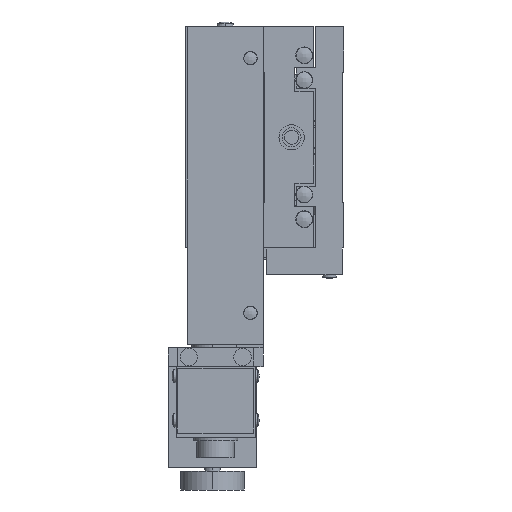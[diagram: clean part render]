
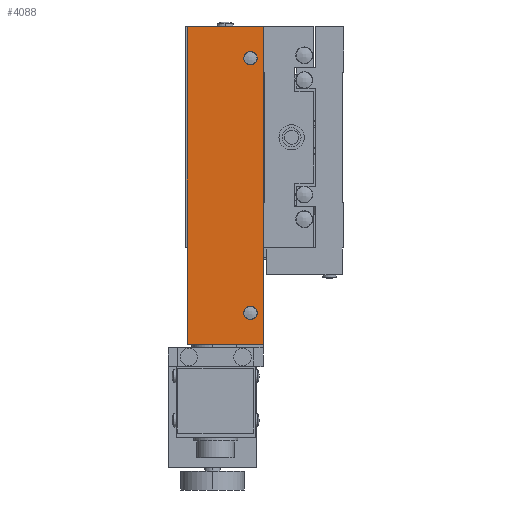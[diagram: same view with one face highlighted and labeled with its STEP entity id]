
A CAD part, left-side view. The second image highlights one B-rep face of the part: STEP entity #4088.
In plain terms, the highlighted planar face has unit normal (-1, 0, 0).
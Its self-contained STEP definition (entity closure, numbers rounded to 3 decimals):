
#2295 = VERTEX_POINT ( 'NONE', #11821 ) ;
#2348 = VERTEX_POINT ( 'NONE', #11966 ) ;
#2351 = EDGE_CURVE ( 'NONE', #2377, #2348, #11969, .T. ) ;
#2362 = VERTEX_POINT ( 'NONE', #11949 ) ;
#2364 = EDGE_CURVE ( 'NONE', #2295, #2362, #12009, .T. ) ;
#2377 = VERTEX_POINT ( 'NONE', #12025 ) ;
#3295 = VERTEX_POINT ( 'NONE', #14153 ) ;
#3296 = VERTEX_POINT ( 'NONE', #14151 ) ;
#3363 = EDGE_CURVE ( 'NONE', #3295, #3296, #14295, .T. ) ;
#3913 = VERTEX_POINT ( 'NONE', #15309 ) ;
#3962 = EDGE_CURVE ( 'NONE', #3295, #3913, #15412, .T. ) ;
#4013 = EDGE_LOOP ( 'NONE', ( #4090, #4074 ) ) ;
#4015 = VERTEX_POINT ( 'NONE', #15472 ) ;
#4071 = ORIENTED_EDGE ( 'NONE', *, *, #3363, .T. ) ;
#4073 = EDGE_CURVE ( 'NONE', #2362, #2295, #15600, .T. ) ;
#4074 = ORIENTED_EDGE ( 'NONE', *, *, #2364, .F. ) ;
#4080 = EDGE_CURVE ( 'NONE', #3296, #4015, #15599, .T. ) ;
#4082 = ORIENTED_EDGE ( 'NONE', *, *, #2351, .F. ) ;
#4083 = EDGE_LOOP ( 'NONE', ( #4089, #4082 ) ) ;
#4084 = EDGE_LOOP ( 'NONE', ( #4094, #4087, #4071, #4091 ) ) ;
#4086 = EDGE_CURVE ( 'NONE', #2348, #2377, #15659, .T. ) ;
#4087 = ORIENTED_EDGE ( 'NONE', *, *, #3962, .F. ) ;
#4088 = ADVANCED_FACE ( 'NONE', ( #15601, #15648, #15655 ), #15650, .T. ) ;
#4089 = ORIENTED_EDGE ( 'NONE', *, *, #4086, .F. ) ;
#4090 = ORIENTED_EDGE ( 'NONE', *, *, #4073, .F. ) ;
#4091 = ORIENTED_EDGE ( 'NONE', *, *, #4080, .T. ) ;
#4092 = EDGE_CURVE ( 'NONE', #3913, #4015, #15639, .T. ) ;
#4094 = ORIENTED_EDGE ( 'NONE', *, *, #4092, .F. ) ;
#11821 = CARTESIAN_POINT ( 'NONE',  ( -43.5, 31.65, -10. ) ) ;
#11949 = CARTESIAN_POINT ( 'NONE',  ( -43.5, 27.35, -10. ) ) ;
#11958 = DIRECTION ( 'NONE',  ( 0., -1., 0. ) ) ;
#11959 = DIRECTION ( 'NONE',  ( -1., 0., 0. ) ) ;
#11960 = CARTESIAN_POINT ( 'NONE',  ( -43.5, 29.5, -90.5 ) ) ;
#11961 = AXIS2_PLACEMENT_3D ( 'NONE', #11960, #11959, #11958 ) ;
#11966 = CARTESIAN_POINT ( 'NONE',  ( -43.5, 27.35, -90.5 ) ) ;
#11969 = CIRCLE ( 'NONE', #11961, 2.15 ) ;
#11995 = DIRECTION ( 'NONE',  ( 0., -1., 0. ) ) ;
#11996 = DIRECTION ( 'NONE',  ( -1., 0., 0. ) ) ;
#12001 = AXIS2_PLACEMENT_3D ( 'NONE', #12011, #11996, #11995 ) ;
#12009 = CIRCLE ( 'NONE', #12001, 2.15 ) ;
#12011 = CARTESIAN_POINT ( 'NONE',  ( -43.5, 29.5, -10. ) ) ;
#12025 = CARTESIAN_POINT ( 'NONE',  ( -43.5, 31.65, -90.5 ) ) ;
#14151 = CARTESIAN_POINT ( 'NONE',  ( -43.5, 49.5, 0. ) ) ;
#14153 = CARTESIAN_POINT ( 'NONE',  ( -43.5, 25.5, 0. ) ) ;
#14291 = DIRECTION ( 'NONE',  ( 0., 1., 0. ) ) ;
#14292 = VECTOR ( 'NONE', #14291, 1000. ) ;
#14294 = CARTESIAN_POINT ( 'NONE',  ( -43.5, 26., 0. ) ) ;
#14295 = LINE ( 'NONE', #14294, #14292 ) ;
#15309 = CARTESIAN_POINT ( 'NONE',  ( -43.5, 25.5, -100.5 ) ) ;
#15400 = DIRECTION ( 'NONE',  ( 0., 0., -1. ) ) ;
#15401 = VECTOR ( 'NONE', #15400, 1000. ) ;
#15411 = CARTESIAN_POINT ( 'NONE',  ( -43.5, 25.5, 0. ) ) ;
#15412 = LINE ( 'NONE', #15411, #15401 ) ;
#15472 = CARTESIAN_POINT ( 'NONE',  ( -43.5, 49.5, -100.5 ) ) ;
#15580 = DIRECTION ( 'NONE',  ( -1., 0., 0. ) ) ;
#15593 = AXIS2_PLACEMENT_3D ( 'NONE', #15607, #15606, #15611 ) ;
#15598 = CARTESIAN_POINT ( 'NONE',  ( -43.5, 29.5, -90.5 ) ) ;
#15599 = LINE ( 'NONE', #15654, #15653 ) ;
#15600 = CIRCLE ( 'NONE', #15593, 2.15 ) ;
#15601 = FACE_BOUND ( 'NONE', #4083, .T. ) ;
#15606 = DIRECTION ( 'NONE',  ( -1., 0., 0. ) ) ;
#15607 = CARTESIAN_POINT ( 'NONE',  ( -43.5, 29.5, -10. ) ) ;
#15611 = DIRECTION ( 'NONE',  ( 0., -1., 0. ) ) ;
#15636 = DIRECTION ( 'NONE',  ( 0., 1., 0. ) ) ;
#15637 = VECTOR ( 'NONE', #15636, 1000. ) ;
#15638 = CARTESIAN_POINT ( 'NONE',  ( -43.5, 26., -100.5 ) ) ;
#15639 = LINE ( 'NONE', #15638, #15637 ) ;
#15642 = DIRECTION ( 'NONE',  ( 0., -1., 0. ) ) ;
#15645 = DIRECTION ( 'NONE',  ( 0., -1., 0. ) ) ;
#15646 = DIRECTION ( 'NONE',  ( -1., 0., 0. ) ) ;
#15647 = AXIS2_PLACEMENT_3D ( 'NONE', #15598, #15646, #15645 ) ;
#15648 = FACE_OUTER_BOUND ( 'NONE', #4084, .T. ) ;
#15650 = PLANE ( 'NONE',  #15651 ) ;
#15651 = AXIS2_PLACEMENT_3D ( 'NONE', #15656, #15580, #15642 ) ;
#15652 = DIRECTION ( 'NONE',  ( 0., 0., -1. ) ) ;
#15653 = VECTOR ( 'NONE', #15652, 1000. ) ;
#15654 = CARTESIAN_POINT ( 'NONE',  ( -43.5, 49.5, 0. ) ) ;
#15655 = FACE_BOUND ( 'NONE', #4013, .T. ) ;
#15656 = CARTESIAN_POINT ( 'NONE',  ( -43.5, 26., 0. ) ) ;
#15659 = CIRCLE ( 'NONE', #15647, 2.15 ) ;
